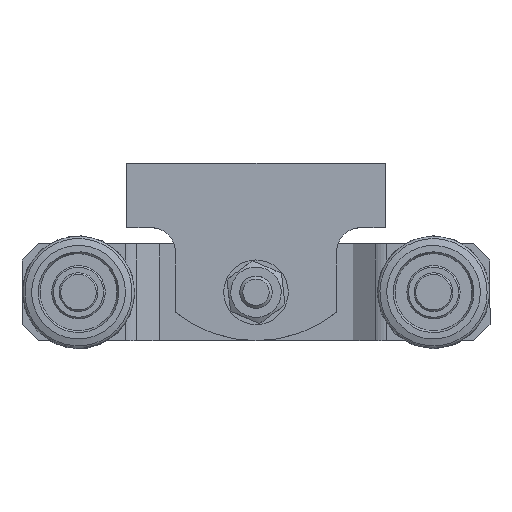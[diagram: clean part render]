
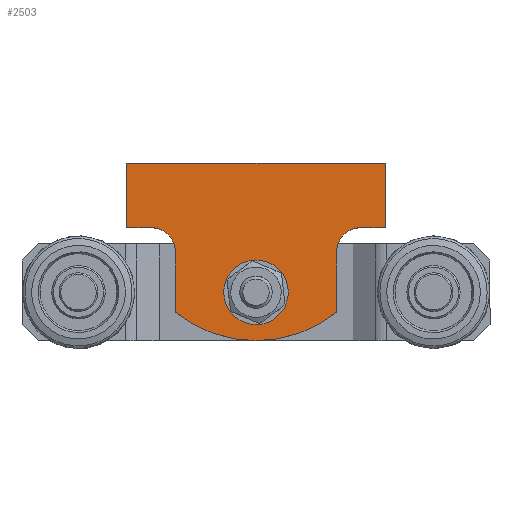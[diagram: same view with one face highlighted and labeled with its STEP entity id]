
A CAD part, top view. The second image highlights one B-rep face of the part: STEP entity #2503.
In plain terms, the highlighted planar face has unit normal (0, 0, 1).
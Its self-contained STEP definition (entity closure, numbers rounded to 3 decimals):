
#185=PLANE('',#2686);
#281=LINE('',#3733,#477);
#285=LINE('',#3745,#481);
#288=LINE('',#3751,#484);
#291=LINE('',#3757,#487);
#294=LINE('',#3763,#490);
#297=LINE('',#3769,#493);
#301=LINE('',#3780,#497);
#477=VECTOR('',#2968,18.7);
#481=VECTOR('',#2980,7.5);
#484=VECTOR('',#2985,20.);
#487=VECTOR('',#2990,80.);
#490=VECTOR('',#2995,20.);
#493=VECTOR('',#3000,7.5);
#497=VECTOR('',#3012,18.7);
#673=FACE_BOUND('',#903,.T.);
#734=FACE_OUTER_BOUND('',#902,.T.);
#902=EDGE_LOOP('',(#1831,#1832,#1833,#1834,#1835,#1836,#1837,#1838,#1839,
#1840));
#903=EDGE_LOOP('',(#1841));
#1105=CIRCLE('',#2667,5.15);
#1107=CIRCLE('',#2670,39.911);
#1109=CIRCLE('',#2674,7.5);
#1111=CIRCLE('',#2682,7.5);
#1209=VERTEX_POINT('',#3718);
#1211=VERTEX_POINT('',#3723);
#1212=VERTEX_POINT('',#3724);
#1215=VERTEX_POINT('',#3732);
#1217=VERTEX_POINT('',#3738);
#1219=VERTEX_POINT('',#3744);
#1221=VERTEX_POINT('',#3750);
#1223=VERTEX_POINT('',#3756);
#1225=VERTEX_POINT('',#3762);
#1227=VERTEX_POINT('',#3768);
#1229=VERTEX_POINT('',#3774);
#1437=EDGE_CURVE('',#1209,#1209,#1105,.T.);
#1439=EDGE_CURVE('',#1211,#1212,#1107,.T.);
#1443=EDGE_CURVE('',#1212,#1215,#281,.T.);
#1446=EDGE_CURVE('',#1215,#1217,#1109,.T.);
#1449=EDGE_CURVE('',#1217,#1219,#285,.T.);
#1452=EDGE_CURVE('',#1219,#1221,#288,.T.);
#1455=EDGE_CURVE('',#1221,#1223,#291,.T.);
#1458=EDGE_CURVE('',#1223,#1225,#294,.T.);
#1461=EDGE_CURVE('',#1225,#1227,#297,.T.);
#1464=EDGE_CURVE('',#1227,#1229,#1111,.T.);
#1467=EDGE_CURVE('',#1229,#1211,#301,.T.);
#1831=ORIENTED_EDGE('',*,*,#1439,.F.);
#1832=ORIENTED_EDGE('',*,*,#1467,.F.);
#1833=ORIENTED_EDGE('',*,*,#1464,.F.);
#1834=ORIENTED_EDGE('',*,*,#1461,.F.);
#1835=ORIENTED_EDGE('',*,*,#1458,.F.);
#1836=ORIENTED_EDGE('',*,*,#1455,.F.);
#1837=ORIENTED_EDGE('',*,*,#1452,.F.);
#1838=ORIENTED_EDGE('',*,*,#1449,.F.);
#1839=ORIENTED_EDGE('',*,*,#1446,.F.);
#1840=ORIENTED_EDGE('',*,*,#1443,.F.);
#1841=ORIENTED_EDGE('',*,*,#1437,.T.);
#2503=ADVANCED_FACE('',(#734,#673),#185,.T.);
#2667=AXIS2_PLACEMENT_3D('',#3719,#2954,#2955);
#2670=AXIS2_PLACEMENT_3D('',#3725,#2960,#2961);
#2674=AXIS2_PLACEMENT_3D('',#3739,#2973,#2974);
#2682=AXIS2_PLACEMENT_3D('',#3775,#3005,#3006);
#2686=AXIS2_PLACEMENT_3D('',#3783,#3016,#3017);
#2954=DIRECTION('center_axis',(0.,0.,-1.));
#2955=DIRECTION('ref_axis',(-1.,0.,0.));
#2960=DIRECTION('center_axis',(0.,0.,-1.));
#2961=DIRECTION('ref_axis',(0.626,0.78,0.));
#2968=DIRECTION('',(0.,-1.,0.));
#2973=DIRECTION('center_axis',(0.,0.,1.));
#2974=DIRECTION('ref_axis',(1.,0.,0.));
#2980=DIRECTION('',(1.,0.,0.));
#2985=DIRECTION('',(0.,-1.,0.));
#2990=DIRECTION('',(-1.,0.,0.));
#2995=DIRECTION('',(0.,1.,0.));
#3000=DIRECTION('',(1.,0.,0.));
#3005=DIRECTION('center_axis',(0.,0.,1.));
#3006=DIRECTION('ref_axis',(0.,1.,0.));
#3012=DIRECTION('',(0.,1.,0.));
#3016=DIRECTION('center_axis',(0.,0.,1.));
#3017=DIRECTION('ref_axis',(1.,0.,0.));
#3718=CARTESIAN_POINT('',(5.15,0.,6.));
#3719=CARTESIAN_POINT('Origin',(0.,0.,6.));
#3723=CARTESIAN_POINT('',(-25.,6.2,6.));
#3724=CARTESIAN_POINT('',(25.,6.2,6.));
#3725=CARTESIAN_POINT('Origin',(0.,-24.911,6.));
#3732=CARTESIAN_POINT('',(25.,-12.5,6.));
#3733=CARTESIAN_POINT('',(25.,-12.5,6.));
#3738=CARTESIAN_POINT('',(32.5,-20.,6.));
#3739=CARTESIAN_POINT('Origin',(32.5,-12.5,6.));
#3744=CARTESIAN_POINT('',(40.,-20.,6.));
#3745=CARTESIAN_POINT('',(40.,-20.,6.));
#3750=CARTESIAN_POINT('',(40.,-40.,6.));
#3751=CARTESIAN_POINT('',(40.,-40.,6.));
#3756=CARTESIAN_POINT('',(-40.,-40.,6.));
#3757=CARTESIAN_POINT('',(-40.,-40.,6.));
#3762=CARTESIAN_POINT('',(-40.,-20.,6.));
#3763=CARTESIAN_POINT('',(-40.,-20.,6.));
#3768=CARTESIAN_POINT('',(-32.5,-20.,6.));
#3769=CARTESIAN_POINT('',(-32.5,-20.,6.));
#3774=CARTESIAN_POINT('',(-25.,-12.5,6.));
#3775=CARTESIAN_POINT('Origin',(-32.5,-12.5,6.));
#3780=CARTESIAN_POINT('',(-25.,6.2,6.));
#3783=CARTESIAN_POINT('Origin',(0.,-18.417,
6.));
